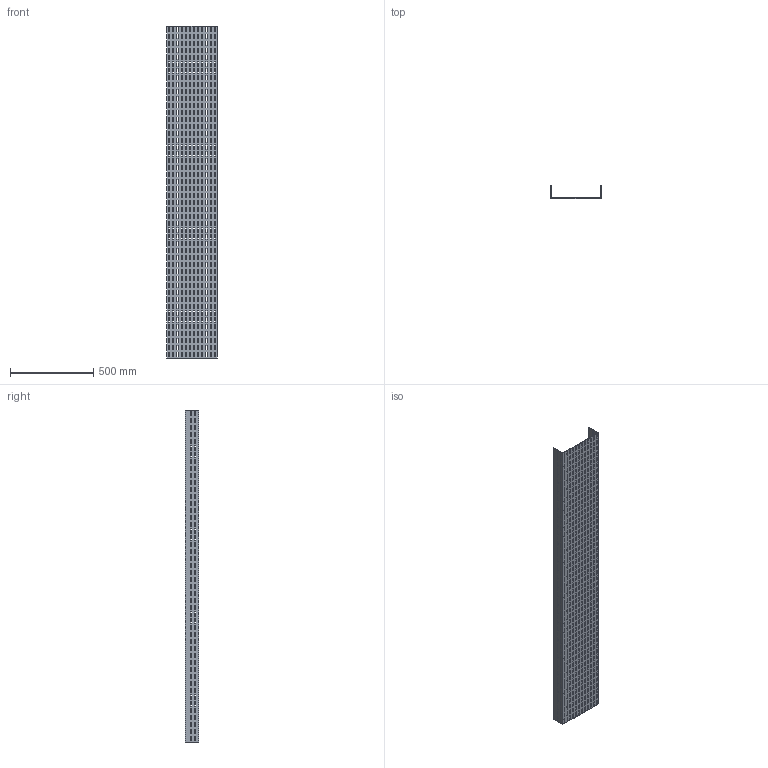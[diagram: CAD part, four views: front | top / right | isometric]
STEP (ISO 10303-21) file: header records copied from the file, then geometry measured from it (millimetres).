
FILE_DESCRIPTION (( 'STEP AP214' ), '1' );
FILE_NAME ('01F2C300.step', '2025-02-21T13:25:42', ( '' ), ( '' ), 'SwSTEP 2.0', 'SolidWorks 2023', '' );
FILE_SCHEMA (( 'AUTOMOTIVE_DESIGN' ));
Length unit declared in the file: millimetre
Products named in the file (1): 01F2C300
Bounding box: 304 x 79 x 2000 mm (x, y, z)
Volume: 2714600 mm3; surface area: 1740417 mm2
Topology: 1 solids, 1 shells, 3082 faces, 9240 edges, 6160 vertices
Faces by surface type: plane 3082
Entity records: 104759 total; most frequent: CARTESIAN_POINT 18483, ORIENTED_EDGE 18480, DIRECTION 15406, EDGE_CURVE 9240, VECTOR 9240, LINE 9240, VERTEX_POINT 6160, EDGE_LOOP 4618
